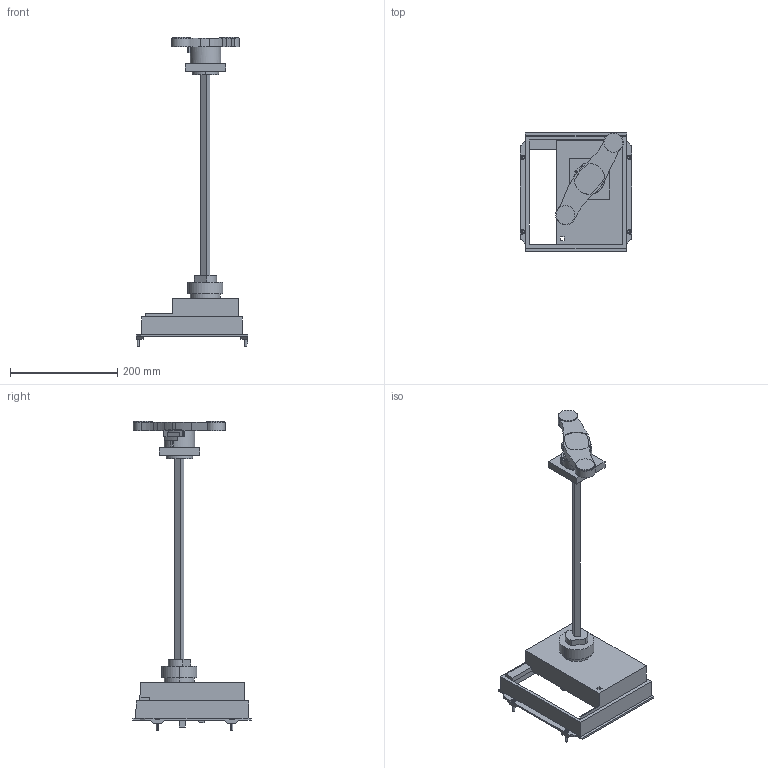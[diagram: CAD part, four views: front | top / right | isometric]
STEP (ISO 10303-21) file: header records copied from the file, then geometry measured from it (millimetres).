
FILE_DESCRIPTION((''),'2;1');
FILE_NAME('33876-3D_ASM','2024-09-13T11:27:44',('SESA621925'),('Schneider-Electric'),'CREO PARAMETRIC BY PTC INC, 2022484','CREO PARAMETRIC BY PTC INC, 2022484','');
FILE_SCHEMA(('AP242_MANAGED_MODEL_BASED_3D_ENGINEERING_MIM_LF { 1 0 10303 442 1 1 4 }'));
Length unit declared in the file: millimetre
Products named in the file (2): 33876-3D; 33876-3D_ASM
Assembly tree (1 placements, depth 2):
  33876-3D_ASM
    33876-3D
Bounding box: 207.8 x 220.97 x 576.22 mm (x, y, z)
Volume: 757506.8 mm3; surface area: 293961.3 mm2
Topology: 6 solids, 6 shells, 884 faces, 2404 edges, 1589 vertices
Faces by surface type: plane 567, cylinder 304, torus 8, extrusion 4, cone 1
Entity records: 37062 total; most frequent: CARTESIAN_POINT 5102, DIRECTION 4811, ORIENTED_EDGE 4808, PRESENTATION_STYLE_ASSIGNMENT 2564, STYLED_ITEM 2414, CURVE_STYLE 2408, EDGE_CURVE 2404, VECTOR 1731
